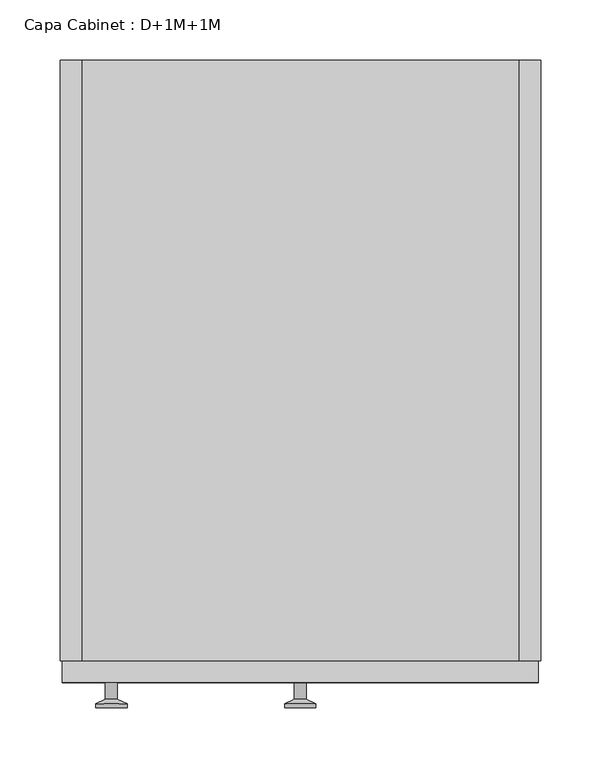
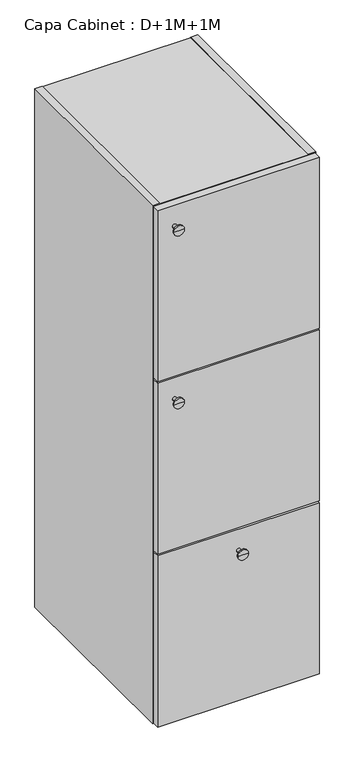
"""IFC4 building model written with IfcOpenShell, lengths in millimetres: furniture geometry, Capa Cabinet : D+1M+1M."""

from ifc_helpers import new_model, si_unit, frame, origin, place, context, project, spatial, polyline, circle_curve, outline, extrude, faceted_brep, source, transform, mapped, element, save
from ifc_brep_helpers import plane_surface, cylinder_surface, revolved_surface, advanced_brep


def capa_cabinet_d_1m_1m_6c71bd2f(model_context):
    return source(origin(), model_context, "Body", "SolidModel", [
        extrude(outline(polyline([(182.0, 0.0), (-182.0, 0.0), (-182.0, 490.0), (182.0, 490.0), (182.0, 0.0)])), frame((0.0, 0.0, 889.0), z_axis=(0.0, 0.0, 1.0), x_axis=(1.0, 0.0, 0.0)), (0.0, 0.0, 1.0), 14.0),
        extrude(outline(polyline([(182.0, 0.0), (-182.0, 0.0), (-182.0, 490.0), (182.0, 490.0), (182.0, 0.0)])), frame((0.0, 0.0, 441.0), z_axis=(0.0, 0.0, 1.0), x_axis=(1.0, 0.0, 0.0)), (0.0, 0.0, 1.0), 14.0),
        faceted_brep([(-182.0, 500.0, 1344.0), (-182.0, 500.0, 1343.0), (182.0, 500.0, 1343.0), (182.0, 500.0, 1344.0), (200.0, 500.0, 1344.0), (200.0, 500.0, 0.0), (182.0, 500.0, 0.0), (182.0, 500.0, 1.0), (-182.0, 500.0, 1.0), (-182.0, 500.0, 0.0), (-200.0, 500.0, 0.0), (-200.0, 500.0, 1344.0), (182.0, 490.0, 19.0), (182.0, 490.0, 1325.0), (-182.0, 490.0, 1325.0), (-182.0, 490.0, 19.0), (-182.0, 0.0, 1344.0), (-200.0, 0.0, 1344.0), (-200.0, 0.0, 0.0), (-182.0, 0.0, 0.0), (-182.0, 0.0, 1.0), (182.0, 0.0, 1.0), (182.0, 0.0, 0.0), (200.0, 0.0, 0.0), (200.0, 0.0, 1344.0), (182.0, 0.0, 1344.0), (182.0, 0.0, 1343.0), (-182.0, 0.0, 1343.0), (182.0, 0.0, 1325.0), (182.0, 0.0, 19.0), (-182.0, 0.0, 19.0), (-182.0, 0.0, 1325.0)], [[[0, 1, 2, 3, 4, 5, 6, 7, 8, 9, 10, 11]], [[12, 13, 14, 15]], [[16, 17, 18, 19, 20, 21, 22, 23, 24, 25, 26, 27], [28, 29, 30, 31]], [[17, 16, 0, 11]], [[18, 17, 11, 10]], [[23, 22, 6, 5]], [[24, 23, 5, 4]], [[19, 18, 10, 9]], [[20, 19, 9, 8]], [[21, 20, 8, 7]], [[22, 21, 7, 6]], [[25, 24, 4, 3]], [[26, 25, 3, 2]], [[27, 26, 2, 1]], [[16, 27, 1, 0]], [[29, 28, 13, 12]], [[30, 29, 12, 15]], [[31, 30, 15, 14]], [[28, 31, 14, 13]]]),
        extrude(outline(polyline([(198.0, -18.0), (-198.0, -18.0), (-198.0, 0.0), (198.0, 0.0), (198.0, -18.0)])), frame((0.0, 0.0, 2.0), z_axis=(0.0, 0.0, 1.0), x_axis=(1.0, 0.0, 0.0)), (0.0, 0.0, 1.0), 444.0),
        advanced_brep(
        [(0.0, -18.0, 392.0), (5.0, -18.0, 392.0), (-5.0, -18.0, 392.0), (-13.0, -38.997134, 392.0), (13.0, -38.997134, 392.0), (0.0, -38.997134, 392.0), (-13.0, -35.5419417, 392.0), (13.0, -35.5419417, 392.0), (-5.0, -31.8114804, 392.0), (5.0, -31.8114804, 392.0)],
        [
            (0, 1),
            (1, 2, circle_curve(frame((0.0, -18.0, 392.0), z_axis=(0.0, 1.0, 0.0), x_axis=(1.0, 0.0, 0.0)), 5.0)),
            (2, 0),
            (2, 1, circle_curve(frame((0.0, -18.0, 392.0), z_axis=(0.0, 1.0, 0.0), x_axis=(1.0, 0.0, 0.0)), 5.0)),
            (3, 4, circle_curve(frame((0.0, -38.997134, 392.0), z_axis=(0.0, -1.0, 0.0), x_axis=(1.0, 0.0, 0.0)), 13.0)),
            (4, 5),
            (5, 3),
            (4, 3, circle_curve(frame((0.0, -38.997134, 392.0), z_axis=(0.0, -1.0, 0.0), x_axis=(1.0, 0.0, 0.0)), 13.0)),
            (6, 7, circle_curve(frame((0.0, -35.5419417, 392.0), z_axis=(0.0, -1.0, 0.0), x_axis=(1.0, 0.0, 0.0)), 13.0)),
            (7, 4),
            (3, 6),
            (7, 6, circle_curve(frame((0.0, -35.5419417, 392.0), z_axis=(0.0, -1.0, 0.0), x_axis=(1.0, 0.0, 0.0)), 13.0)),
            (8, 9, circle_curve(frame((0.0, -31.8114804, 392.0), z_axis=(0.0, -1.0, 0.0), x_axis=(1.0, 0.0, 0.0)), 5.0)),
            (9, 7),
            (6, 8),
            (9, 8, circle_curve(frame((0.0, -31.8114804, 392.0), z_axis=(0.0, -1.0, 0.0), x_axis=(1.0, 0.0, 0.0)), 5.0)),
            (1, 9),
            (8, 2),
        ],
        [
            plane_surface(frame((0.0, -18.0, 392.0), z_axis=(0.0, 1.0, 0.0), x_axis=(1.0, 0.0, 0.0))),
            plane_surface(frame((0.0, -38.997134, 392.0), z_axis=(0.0, -1.0, 0.0), x_axis=(1.0, 0.0, 0.0))),
            cylinder_surface(frame((0.0, -38.997134, 392.0), z_axis=(0.0, 1.0, 0.0), x_axis=(1.0, 0.0, 0.0)), 13.0),
            revolved_surface(polyline([(13.0, -35.5419417, 392.0), (5.0, -31.8114804, 392.0)]), (0.0, -38.997134, 392.0), (0.0, 1.0, 0.0)),
            cylinder_surface(frame((0.0, -38.997134, 392.0), z_axis=(0.0, 1.0, 0.0), x_axis=(1.0, 0.0, 0.0)), 5.0),
        ],
        [
            (0, [[1, 2, 3]]),
            (0, [[-3, 4, -1]]),
            (1, [[5, 6, 7]]),
            (1, [[8, -7, -6]]),
            (2, [[9, 10, -5, 11]]),
            (2, [[12, -11, -8, -10]]),
            (3, [[13, 14, -9, 15]]),
            (3, [[16, -15, -12, -14]]),
            (4, [[-2, 17, -13, 18]]),
            (4, [[-4, -18, -16, -17]]),
        ],
    ),
        extrude(outline(polyline([(198.0, -18.0), (-198.0, -18.0), (-198.0, 0.0), (198.0, 0.0), (198.0, -18.0)])), frame((0.0, 0.0, 898.0), z_axis=(0.0, 0.0, 1.0), x_axis=(1.0, 0.0, 0.0)), (0.0, 0.0, 1.0), 444.0),
        advanced_brep(
        [(-157.2922597, -18.0, 1288.0), (-152.2922597, -18.0, 1288.0), (-162.2922597, -18.0, 1288.0), (-170.2922597, -38.997134, 1288.0), (-144.2922597, -38.997134, 1288.0), (-157.2922597, -38.997134, 1288.0), (-170.2922597, -35.5419417, 1288.0), (-144.2922597, -35.5419417, 1288.0), (-162.2922597, -31.8114804, 1288.0), (-152.2922597, -31.8114804, 1288.0)],
        [
            (0, 1),
            (1, 2, circle_curve(frame((-157.2922597, -18.0, 1288.0), z_axis=(0.0, 1.0, 0.0), x_axis=(1.0, 0.0, 0.0)), 5.0)),
            (2, 0),
            (2, 1, circle_curve(frame((-157.2922597, -18.0, 1288.0), z_axis=(0.0, 1.0, 0.0), x_axis=(1.0, 0.0, 0.0)), 5.0)),
            (3, 4, circle_curve(frame((-157.2922597, -38.997134, 1288.0), z_axis=(0.0, -1.0, 0.0), x_axis=(1.0, 0.0, 0.0)), 13.0)),
            (4, 5),
            (5, 3),
            (4, 3, circle_curve(frame((-157.2922597, -38.997134, 1288.0), z_axis=(0.0, -1.0, 0.0), x_axis=(1.0, 0.0, 0.0)), 13.0)),
            (6, 7, circle_curve(frame((-157.2922597, -35.5419417, 1288.0), z_axis=(0.0, -1.0, 0.0), x_axis=(1.0, 0.0, 0.0)), 13.0)),
            (7, 4),
            (3, 6),
            (7, 6, circle_curve(frame((-157.2922597, -35.5419417, 1288.0), z_axis=(0.0, -1.0, 0.0), x_axis=(1.0, 0.0, 0.0)), 13.0)),
            (8, 9, circle_curve(frame((-157.2922597, -31.8114804, 1288.0), z_axis=(0.0, -1.0, 0.0), x_axis=(1.0, 0.0, 0.0)), 5.0)),
            (9, 7),
            (6, 8),
            (9, 8, circle_curve(frame((-157.2922597, -31.8114804, 1288.0), z_axis=(0.0, -1.0, 0.0), x_axis=(1.0, 0.0, 0.0)), 5.0)),
            (1, 9),
            (8, 2),
        ],
        [
            plane_surface(frame((-157.2922597, -18.0, 1288.0), z_axis=(0.0, 1.0, 0.0), x_axis=(1.0, 0.0, 0.0))),
            plane_surface(frame((-157.2922597, -38.997134, 1288.0), z_axis=(0.0, -1.0, 0.0), x_axis=(1.0, 0.0, 0.0))),
            cylinder_surface(frame((-157.2922597, -38.997134, 1288.0), z_axis=(0.0, 1.0, 0.0), x_axis=(1.0, 0.0, 0.0)), 13.0),
            revolved_surface(polyline([(-144.2922597, -35.5419417, 1288.0), (-152.2922597, -31.8114804, 1288.0)]), (-157.2922597, -38.997134, 1288.0), (0.0, 1.0, 0.0)),
            cylinder_surface(frame((-157.2922597, -38.997134, 1288.0), z_axis=(0.0, 1.0, 0.0), x_axis=(1.0, 0.0, 0.0)), 5.0),
        ],
        [
            (0, [[1, 2, 3]]),
            (0, [[-3, 4, -1]]),
            (1, [[5, 6, 7]]),
            (1, [[8, -7, -6]]),
            (2, [[9, 10, -5, 11]]),
            (2, [[12, -11, -8, -10]]),
            (3, [[13, 14, -9, 15]]),
            (3, [[16, -15, -12, -14]]),
            (4, [[-2, 17, -13, 18]]),
            (4, [[-4, -18, -16, -17]]),
        ],
    ),
        extrude(outline(polyline([(198.0, -18.0), (-198.0, -18.0), (-198.0, 0.0), (198.0, 0.0), (198.0, -18.0)])), frame((0.0, 0.0, 450.0), z_axis=(0.0, 0.0, 1.0), x_axis=(1.0, 0.0, 0.0)), (0.0, 0.0, 1.0), 444.0),
        advanced_brep(
        [(-157.2922597, -18.0, 840.0), (-152.2922597, -18.0, 840.0), (-162.2922597, -18.0, 840.0), (-170.2922597, -38.997134, 840.0), (-144.2922597, -38.997134, 840.0), (-157.2922597, -38.997134, 840.0), (-170.2922597, -35.5419417, 840.0), (-144.2922597, -35.5419417, 840.0), (-162.2922597, -31.8114804, 840.0), (-152.2922597, -31.8114804, 840.0)],
        [
            (0, 1),
            (1, 2, circle_curve(frame((-157.2922597, -18.0, 840.0), z_axis=(0.0, 1.0, 0.0), x_axis=(1.0, 0.0, 0.0)), 5.0)),
            (2, 0),
            (2, 1, circle_curve(frame((-157.2922597, -18.0, 840.0), z_axis=(0.0, 1.0, 0.0), x_axis=(1.0, 0.0, 0.0)), 5.0)),
            (3, 4, circle_curve(frame((-157.2922597, -38.997134, 840.0), z_axis=(0.0, -1.0, 0.0), x_axis=(1.0, 0.0, 0.0)), 13.0)),
            (4, 5),
            (5, 3),
            (4, 3, circle_curve(frame((-157.2922597, -38.997134, 840.0), z_axis=(0.0, -1.0, 0.0), x_axis=(1.0, 0.0, 0.0)), 13.0)),
            (6, 7, circle_curve(frame((-157.2922597, -35.5419417, 840.0), z_axis=(0.0, -1.0, 0.0), x_axis=(1.0, 0.0, 0.0)), 13.0)),
            (7, 4),
            (3, 6),
            (7, 6, circle_curve(frame((-157.2922597, -35.5419417, 840.0), z_axis=(0.0, -1.0, 0.0), x_axis=(1.0, 0.0, 0.0)), 13.0)),
            (8, 9, circle_curve(frame((-157.2922597, -31.8114804, 840.0), z_axis=(0.0, -1.0, 0.0), x_axis=(1.0, 0.0, 0.0)), 5.0)),
            (9, 7),
            (6, 8),
            (9, 8, circle_curve(frame((-157.2922597, -31.8114804, 840.0), z_axis=(0.0, -1.0, 0.0), x_axis=(1.0, 0.0, 0.0)), 5.0)),
            (1, 9),
            (8, 2),
        ],
        [
            plane_surface(frame((-157.2922597, -18.0, 840.0), z_axis=(0.0, 1.0, 0.0), x_axis=(1.0, 0.0, 0.0))),
            plane_surface(frame((-157.2922597, -38.997134, 840.0), z_axis=(0.0, -1.0, 0.0), x_axis=(1.0, 0.0, 0.0))),
            cylinder_surface(frame((-157.2922597, -38.997134, 840.0), z_axis=(0.0, 1.0, 0.0), x_axis=(1.0, 0.0, 0.0)), 13.0),
            revolved_surface(polyline([(-144.2922597, -35.5419417, 840.0), (-152.2922597, -31.8114804, 840.0)]), (-157.2922597, -38.997134, 840.0), (0.0, 1.0, 0.0)),
            cylinder_surface(frame((-157.2922597, -38.997134, 840.0), z_axis=(0.0, 1.0, 0.0), x_axis=(1.0, 0.0, 0.0)), 5.0),
        ],
        [
            (0, [[1, 2, 3]]),
            (0, [[-3, 4, -1]]),
            (1, [[5, 6, 7]]),
            (1, [[8, -7, -6]]),
            (2, [[9, 10, -5, 11]]),
            (2, [[12, -11, -8, -10]]),
            (3, [[13, 14, -9, 15]]),
            (3, [[16, -15, -12, -14]]),
            (4, [[-2, 17, -13, 18]]),
            (4, [[-4, -18, -16, -17]]),
        ],
    ),
    ])


if __name__ == "__main__":
    model = new_model("IFC4")
    model_context = context("Model", 3, world=origin())
    ifc_project = project(units=[si_unit("LENGTHUNIT", "METRE", prefix="MILLI")], contexts=[model_context])
    site = spatial("IfcSite", under=ifc_project)
    building = spatial("IfcBuilding", under=site)
    placement = place(None, origin())
    capa_cabinet_d_1m_1m_shape = capa_cabinet_d_1m_1m_6c71bd2f(model_context)
    element("IfcFurniture", 1, ObjectType="Capa Cabinet : D+1M+1M", at=placement, inside=building, context=model_context, shape_type="MappedRepresentation", body=[
        mapped(capa_cabinet_d_1m_1m_shape, transform((0.0, 0.0, 0.0), x_axis=(1.0, 0.0, 0.0), y_axis=(0.0, 1.0, 0.0), z_axis=(0.0, 0.0, 1.0))),
    ])
    save(model, "model.ifc")
